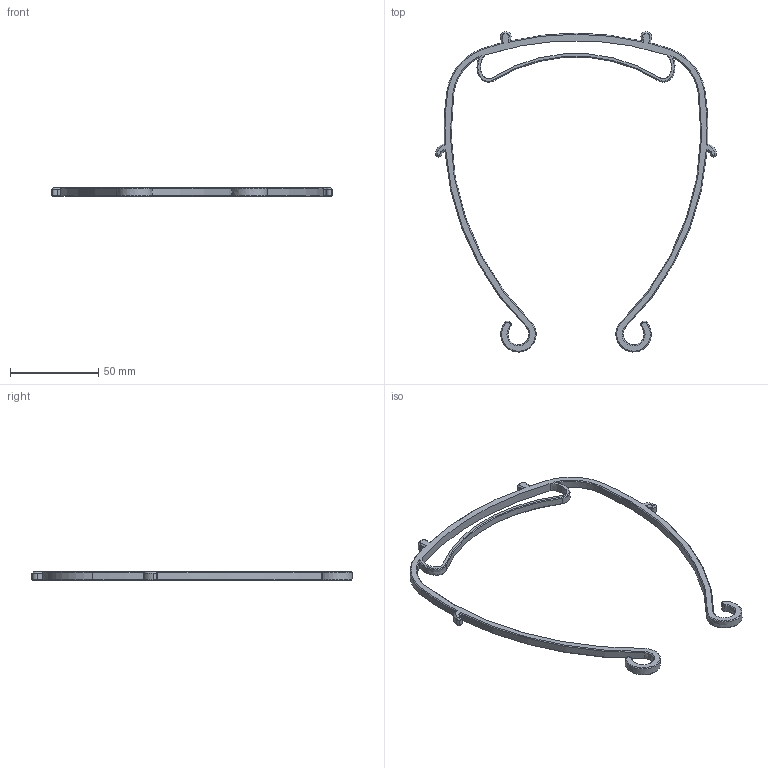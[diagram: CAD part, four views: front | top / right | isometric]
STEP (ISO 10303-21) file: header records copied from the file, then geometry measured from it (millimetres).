
FILE_DESCRIPTION((''),'2;1');
FILE_NAME('VERKSTAN_A4_O','2020-04-07T20:29:15',('Jason'),(''),'CREO PARAMETRIC BY PTC INC, 2019224','CREO PARAMETRIC BY PTC INC, 2019224','');
FILE_SCHEMA(('CONFIG_CONTROL_DESIGN'));
Length unit declared in the file: millimetre
Products named in the file (1): VERKSTAN_A4_O
Bounding box: 159.26 x 181.34 x 5 mm (x, y, z)
Volume: 12285.6 mm3; surface area: 11276.8 mm2
Topology: 1 solids, 1 shells, 138 faces, 332 edges, 196 vertices
Faces by surface type: cone 56, plane 32, cylinder 30, bspline 12, extrusion 8
Entity records: 5871 total; most frequent: CARTESIAN_POINT 2735, ORIENTED_EDGE 664, DIRECTION 616, EDGE_CURVE 332, AXIS2_PLACEMENT_3D 230, VERTEX_POINT 196, VECTOR 156, LINE 148
